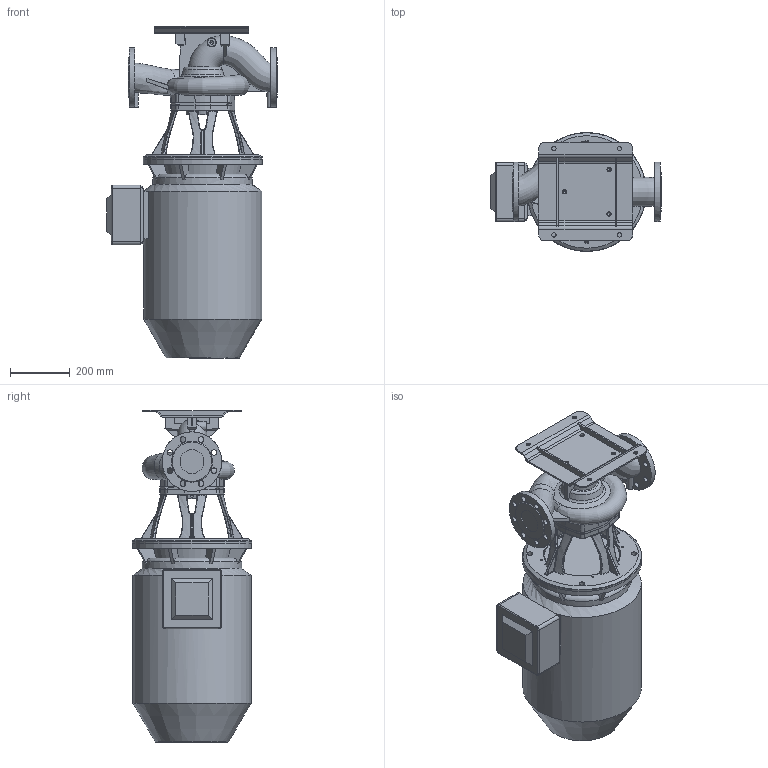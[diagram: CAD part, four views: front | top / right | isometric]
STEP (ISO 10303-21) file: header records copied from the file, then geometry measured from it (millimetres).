
FILE_DESCRIPTION (( 'STEP AP203' ), '1' );
FILE_NAME ('KI80-180_2_30kW.STEP', '2024-07-29T07:23:35', ( '' ), ( '' ), 'SwSTEP 2.0', 'SolidWorks 2023', '' );
FILE_SCHEMA (( 'CONFIG_CONTROL_DESIGN' ));
Length unit declared in the file: millimetre
Products named in the file (11): 440130_solid; 230491; 230490; 230416; 230170; 230171; 230417; 220480; 220426; KI80-180_2_30kW; 230033
Assembly tree (11 placements, depth 3):
  KI80-180_2_30kW
    440130_solid
    230417
      230416
    230491
      230490
    220480
      220426
    230171
      230170
      230033  x2
Bounding box: 572 x 400 x 1114.95 mm (x, y, z)
Volume: 92622991.4 mm3; surface area: 2436687.6 mm2
Topology: 7 solids, 7 shells, 1074 faces, 2721 edges, 1641 vertices
Faces by surface type: plane 309, bspline 309, cylinder 263, torus 93, cone 78, sphere 22
Full cylindrical faces by diameter (mm): 5 x4, 6 x3, 6.8 x4, 7 x4, 10.2 x7, 11.8 x4, 14 x4, 14.5 x7, 18.5 x4, 19 x20, 80 x2, 150 x1, 189 x1, 194 x1, 200 x2, 253 x1, 300 x1, 335 x1, 398 x1, 400 x2
Entity records: 81608 total; most frequent: CARTESIAN_POINT 57904, ORIENTED_EDGE 5040, DIRECTION 4140, EDGE_CURVE 2520, AXIS2_PLACEMENT_3D 1682, VERTEX_POINT 1575, EDGE_LOOP 1273, FACE_OUTER_BOUND 1142
